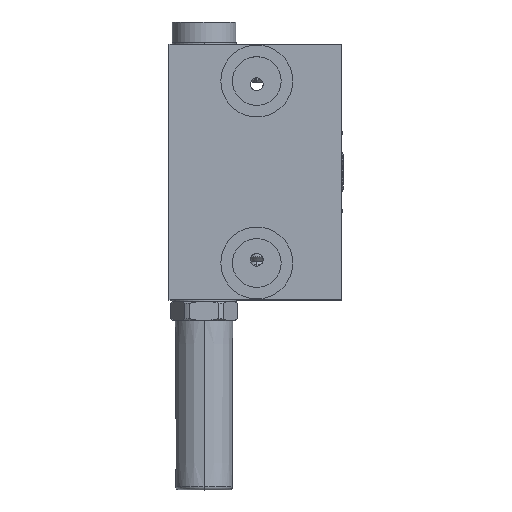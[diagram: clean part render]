
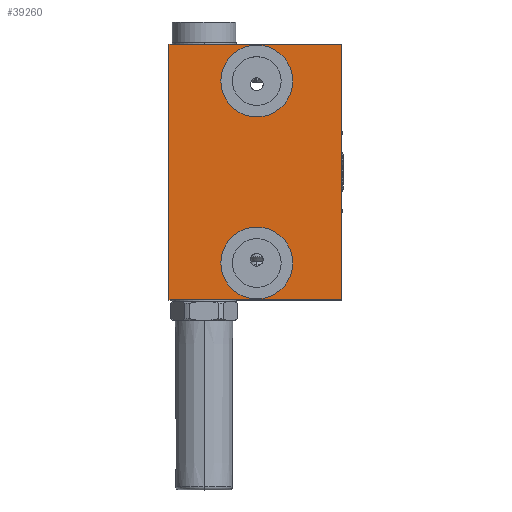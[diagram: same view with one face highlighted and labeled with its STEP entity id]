
A CAD part, top view. The second image highlights one B-rep face of the part: STEP entity #39260.
In plain terms, the highlighted planar face has unit normal (0, 0, 1).
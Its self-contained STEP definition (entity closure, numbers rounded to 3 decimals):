
#1247 = EDGE_CURVE ( 'NONE', #17505, #8125, #50919, .T. ) ;
#1773 = ORIENTED_EDGE ( 'NONE', *, *, #1247, .T. ) ;
#2454 = EDGE_LOOP ( 'NONE', ( #18791, #1773, #65918, #44284 ) ) ;
#3042 = DIRECTION ( 'NONE',  ( 1., 0., 0. ) ) ;
#3771 = EDGE_CURVE ( 'NONE', #36567, #56307, #36332, .T. ) ;
#3794 = VERTEX_POINT ( 'NONE', #18393 ) ;
#5265 = CIRCLE ( 'NONE', #65471, 11.25 ) ;
#5287 = CIRCLE ( 'NONE', #28843, 11.25 ) ;
#5383 = CARTESIAN_POINT ( 'NONE',  ( 0.5, 28.5, 38. ) ) ;
#6121 = DIRECTION ( 'NONE',  ( 1., 0., 0. ) ) ;
#8125 = VERTEX_POINT ( 'NONE', #36006 ) ;
#8796 = DIRECTION ( 'NONE',  ( 1., 0., 0. ) ) ;
#12692 = FACE_BOUND ( 'NONE', #23349, .T. ) ;
#13892 = CARTESIAN_POINT ( 'NONE',  ( -10.75, -28.5, 38. ) ) ;
#16282 = LINE ( 'NONE', #59130, #62166 ) ;
#16574 = CARTESIAN_POINT ( 'NONE',  ( 11.75, 28.5, 38. ) ) ;
#17505 = VERTEX_POINT ( 'NONE', #31392 ) ;
#18393 = CARTESIAN_POINT ( 'NONE',  ( -10.75, 28.5, 38. ) ) ;
#18522 = VECTOR ( 'NONE', #73082, 1000. ) ;
#18791 = ORIENTED_EDGE ( 'NONE', *, *, #55981, .T. ) ;
#20392 = AXIS2_PLACEMENT_3D ( 'NONE', #50887, #62933, #29037 ) ;
#20599 = EDGE_CURVE ( 'NONE', #3794, #27973, #5265, .T. ) ;
#23349 = EDGE_LOOP ( 'NONE', ( #35829, #39927 ) ) ;
#24739 = DIRECTION ( 'NONE',  ( 0., -1., 0. ) ) ;
#25344 = FACE_OUTER_BOUND ( 'NONE', #2454, .T. ) ;
#27973 = VERTEX_POINT ( 'NONE', #16574 ) ;
#28843 = AXIS2_PLACEMENT_3D ( 'NONE', #54808, #31492, #8796 ) ;
#29037 = DIRECTION ( 'NONE',  ( 1., 0., 0. ) ) ;
#29520 = DIRECTION ( 'NONE',  ( 1., 0., 0. ) ) ;
#31392 = CARTESIAN_POINT ( 'NONE',  ( -27., -40., 38. ) ) ;
#31492 = DIRECTION ( 'NONE',  ( 0., 0., 1. ) ) ;
#32921 = VECTOR ( 'NONE', #68840, 1000. ) ;
#35478 = CARTESIAN_POINT ( 'NONE',  ( 0.5, -28.5, 38. ) ) ;
#35829 = ORIENTED_EDGE ( 'NONE', *, *, #3771, .F. ) ;
#36006 = CARTESIAN_POINT ( 'NONE',  ( 27., -40., 38. ) ) ;
#36018 = EDGE_CURVE ( 'NONE', #61002, #72915, #44480, .T. ) ;
#36332 = CIRCLE ( 'NONE', #70649, 11.25 ) ;
#36567 = VERTEX_POINT ( 'NONE', #42384 ) ;
#37508 = CARTESIAN_POINT ( 'NONE',  ( 0.5, 28.5, 38. ) ) ;
#39149 = ORIENTED_EDGE ( 'NONE', *, *, #20599, .F. ) ;
#39260 = ADVANCED_FACE ( 'NONE', ( #12692, #47768, #25344 ), #56903, .T. ) ;
#39441 = CIRCLE ( 'NONE', #57521, 11.25 ) ;
#39927 = ORIENTED_EDGE ( 'NONE', *, *, #47017, .F. ) ;
#42070 = EDGE_CURVE ( 'NONE', #27973, #3794, #39441, .T. ) ;
#42384 = CARTESIAN_POINT ( 'NONE',  ( 11.75, -28.5, 38. ) ) ;
#44284 = ORIENTED_EDGE ( 'NONE', *, *, #36018, .T. ) ;
#44480 = LINE ( 'NONE', #61572, #52503 ) ;
#44779 = CARTESIAN_POINT ( 'NONE',  ( 27., 40., 38. ) ) ;
#45382 = EDGE_CURVE ( 'NONE', #8125, #61002, #63426, .T. ) ;
#47017 = EDGE_CURVE ( 'NONE', #56307, #36567, #5287, .T. ) ;
#47768 = FACE_BOUND ( 'NONE', #64379, .T. ) ;
#50887 = CARTESIAN_POINT ( 'NONE',  ( 0., 0., 38. ) ) ;
#50919 = LINE ( 'NONE', #61219, #18522 ) ;
#51979 = CARTESIAN_POINT ( 'NONE',  ( 27., -40., 38. ) ) ;
#52503 = VECTOR ( 'NONE', #73202, 1000. ) ;
#54808 = CARTESIAN_POINT ( 'NONE',  ( 0.5, -28.5, 38. ) ) ;
#55981 = EDGE_CURVE ( 'NONE', #72915, #17505, #16282, .T. ) ;
#56307 = VERTEX_POINT ( 'NONE', #13892 ) ;
#56903 = PLANE ( 'NONE',  #20392 ) ;
#57521 = AXIS2_PLACEMENT_3D ( 'NONE', #37508, #59349, #3042 ) ;
#58354 = DIRECTION ( 'NONE',  ( 0., 0., 1. ) ) ;
#59130 = CARTESIAN_POINT ( 'NONE',  ( -27., -40., 38. ) ) ;
#59349 = DIRECTION ( 'NONE',  ( 0., 0., 1. ) ) ;
#61002 = VERTEX_POINT ( 'NONE', #44779 ) ;
#61219 = CARTESIAN_POINT ( 'NONE',  ( 27., -40., 38. ) ) ;
#61572 = CARTESIAN_POINT ( 'NONE',  ( 27., 40., 38. ) ) ;
#62166 = VECTOR ( 'NONE', #24739, 1000. ) ;
#62933 = DIRECTION ( 'NONE',  ( 0., 0., 1. ) ) ;
#63426 = LINE ( 'NONE', #51979, #32921 ) ;
#64379 = EDGE_LOOP ( 'NONE', ( #72282, #39149 ) ) ;
#65471 = AXIS2_PLACEMENT_3D ( 'NONE', #5383, #74331, #6121 ) ;
#65918 = ORIENTED_EDGE ( 'NONE', *, *, #45382, .T. ) ;
#68840 = DIRECTION ( 'NONE',  ( 0., 1., 0. ) ) ;
#68924 = CARTESIAN_POINT ( 'NONE',  ( -27., 40., 38. ) ) ;
#70649 = AXIS2_PLACEMENT_3D ( 'NONE', #35478, #58354, #29520 ) ;
#72282 = ORIENTED_EDGE ( 'NONE', *, *, #42070, .F. ) ;
#72915 = VERTEX_POINT ( 'NONE', #68924 ) ;
#73082 = DIRECTION ( 'NONE',  ( 1., 0., 0. ) ) ;
#73202 = DIRECTION ( 'NONE',  ( -1., 0., 0. ) ) ;
#74331 = DIRECTION ( 'NONE',  ( 0., 0., 1. ) ) ;
